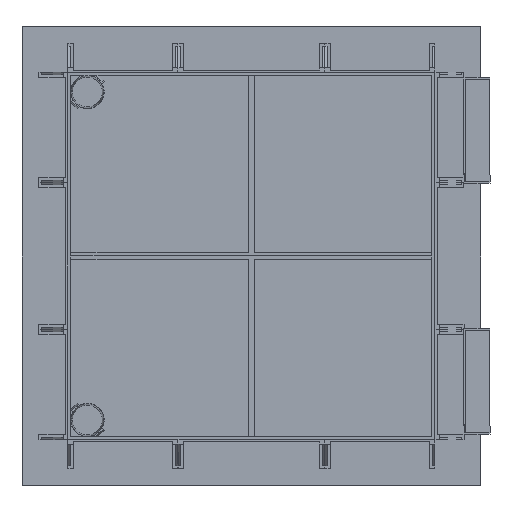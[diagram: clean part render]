
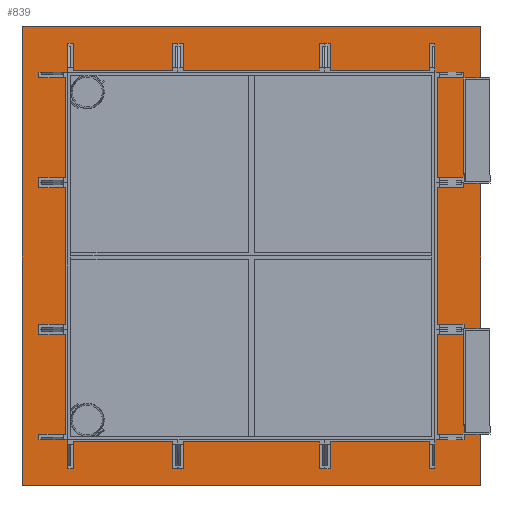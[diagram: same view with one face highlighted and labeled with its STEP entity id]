
A CAD part, top view. The second image highlights one B-rep face of the part: STEP entity #839.
In plain terms, the highlighted planar face has unit normal (0, 0, 1) as drawn and (0, 1, 0) by its records, which use the part's own axes.
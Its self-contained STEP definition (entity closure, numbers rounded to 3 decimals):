
#701 = EDGE_CURVE('',#702,#704,#706,.T.);
#702 = VERTEX_POINT('',#703);
#703 = CARTESIAN_POINT('',(762.,25.4,-762.));
#704 = VERTEX_POINT('',#705);
#705 = CARTESIAN_POINT('',(762.,25.4,-6858.));
#706 = LINE('',#707,#708);
#707 = CARTESIAN_POINT('',(762.,25.4,-5334.));
#708 = VECTOR('',#709,1.);
#709 = DIRECTION('',(0.,0.,-1.));
#741 = EDGE_CURVE('',#704,#742,#744,.T.);
#742 = VERTEX_POINT('',#743);
#743 = CARTESIAN_POINT('',(6858.,25.4,-6858.));
#744 = LINE('',#745,#746);
#745 = CARTESIAN_POINT('',(5334.,25.4,-6858.));
#746 = VECTOR('',#747,1.);
#747 = DIRECTION('',(1.,0.,0.));
#772 = EDGE_CURVE('',#742,#773,#775,.T.);
#773 = VERTEX_POINT('',#774);
#774 = CARTESIAN_POINT('',(6858.,25.4,-762.));
#775 = LINE('',#776,#777);
#776 = CARTESIAN_POINT('',(6858.,25.4,-2286.));
#777 = VECTOR('',#778,1.);
#778 = DIRECTION('',(0.,0.,1.));
#803 = EDGE_CURVE('',#773,#702,#804,.T.);
#804 = LINE('',#805,#806);
#805 = CARTESIAN_POINT('',(2286.,25.4,-762.));
#806 = VECTOR('',#807,1.);
#807 = DIRECTION('',(-1.,0.,0.));
#839 = ADVANCED_FACE('',(#840,#874),#880,.T.);
#840 = FACE_BOUND('',#841,.T.);
#841 = EDGE_LOOP('',(#842,#852,#860,#868));
#842 = ORIENTED_EDGE('',*,*,#843,.T.);
#843 = EDGE_CURVE('',#844,#846,#848,.T.);
#844 = VERTEX_POINT('',#845);
#845 = CARTESIAN_POINT('',(7620.,25.4,0.));
#846 = VERTEX_POINT('',#847);
#847 = CARTESIAN_POINT('',(7620.,25.4,-7620.));
#848 = LINE('',#849,#850);
#849 = CARTESIAN_POINT('',(7620.,25.4,0.));
#850 = VECTOR('',#851,1.);
#851 = DIRECTION('',(0.,0.,-1.));
#852 = ORIENTED_EDGE('',*,*,#853,.T.);
#853 = EDGE_CURVE('',#846,#854,#856,.T.);
#854 = VERTEX_POINT('',#855);
#855 = CARTESIAN_POINT('',(0.,25.4,-7620.));
#856 = LINE('',#857,#858);
#857 = CARTESIAN_POINT('',(7620.,25.4,-7620.));
#858 = VECTOR('',#859,1.);
#859 = DIRECTION('',(-1.,0.,0.));
#860 = ORIENTED_EDGE('',*,*,#861,.T.);
#861 = EDGE_CURVE('',#854,#862,#864,.T.);
#862 = VERTEX_POINT('',#863);
#863 = CARTESIAN_POINT('',(0.,25.4,0.));
#864 = LINE('',#865,#866);
#865 = CARTESIAN_POINT('',(0.,25.4,-7620.));
#866 = VECTOR('',#867,1.);
#867 = DIRECTION('',(0.,0.,1.));
#868 = ORIENTED_EDGE('',*,*,#869,.T.);
#869 = EDGE_CURVE('',#862,#844,#870,.T.);
#870 = LINE('',#871,#872);
#871 = CARTESIAN_POINT('',(0.,25.4,0.));
#872 = VECTOR('',#873,1.);
#873 = DIRECTION('',(1.,0.,0.));
#874 = FACE_BOUND('',#875,.T.);
#875 = EDGE_LOOP('',(#876,#877,#878,#879));
#876 = ORIENTED_EDGE('',*,*,#701,.T.);
#877 = ORIENTED_EDGE('',*,*,#741,.T.);
#878 = ORIENTED_EDGE('',*,*,#772,.T.);
#879 = ORIENTED_EDGE('',*,*,#803,.T.);
#880 = PLANE('',#881);
#881 = AXIS2_PLACEMENT_3D('',#882,#883,#884);
#882 = CARTESIAN_POINT('',(3810.,25.4,-3810.));
#883 = DIRECTION('',(0.,1.,0.));
#884 = DIRECTION('',(0.,-0.,1.));
